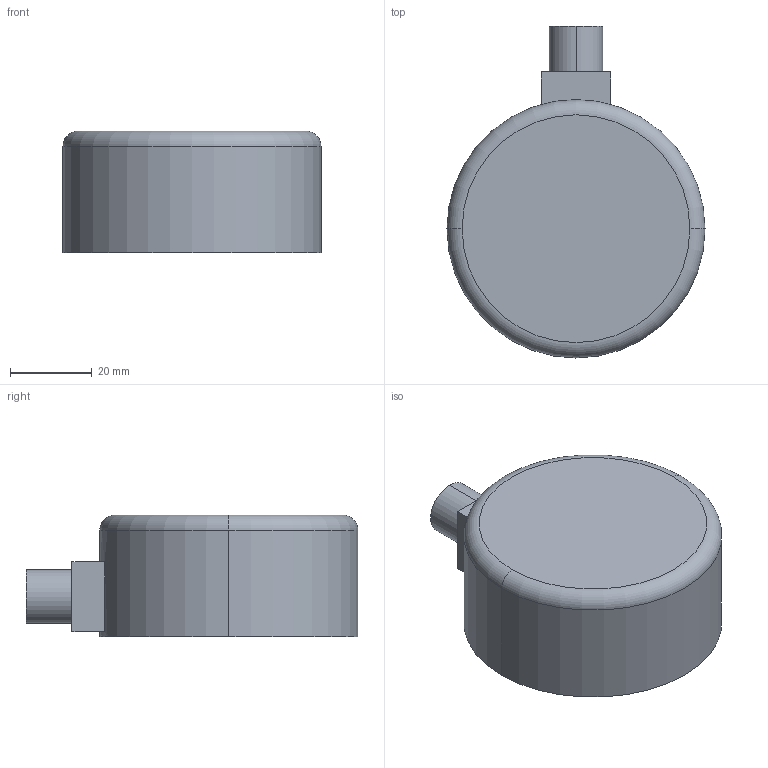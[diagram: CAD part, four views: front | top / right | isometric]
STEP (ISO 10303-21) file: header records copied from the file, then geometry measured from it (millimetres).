
FILE_DESCRIPTION (( 'STEP AP214' ), '1' );
FILE_NAME ('Manometr_grzewczy_hydrometr_x_0_3D_AFRISO.STEP', '2022-12-08T12:49:34', ( '' ), ( '' ), 'SwSTEP 2.0', 'SolidWorks 2022', '' );
FILE_SCHEMA (( 'AUTOMOTIVE_DESIGN' ));
Length unit declared in the file: millimetre
Products named in the file (1): Manometr_grzewczy_hydrometr_x_0_3D_AFRISO
Bounding box: 63 x 81 x 29.7 mm (x, y, z)
Volume: 95602.4 mm3; surface area: 12764.9 mm2
Topology: 1 solids, 1 shells, 14 faces, 28 edges, 18 vertices
Faces by surface type: plane 8, cylinder 4, torus 2
Entity records: 404 total; most frequent: DIRECTION 72, CARTESIAN_POINT 61, ORIENTED_EDGE 56, AXIS2_PLACEMENT_3D 29, EDGE_CURVE 28, VERTEX_POINT 18, EDGE_LOOP 16, ADVANCED_FACE 14
